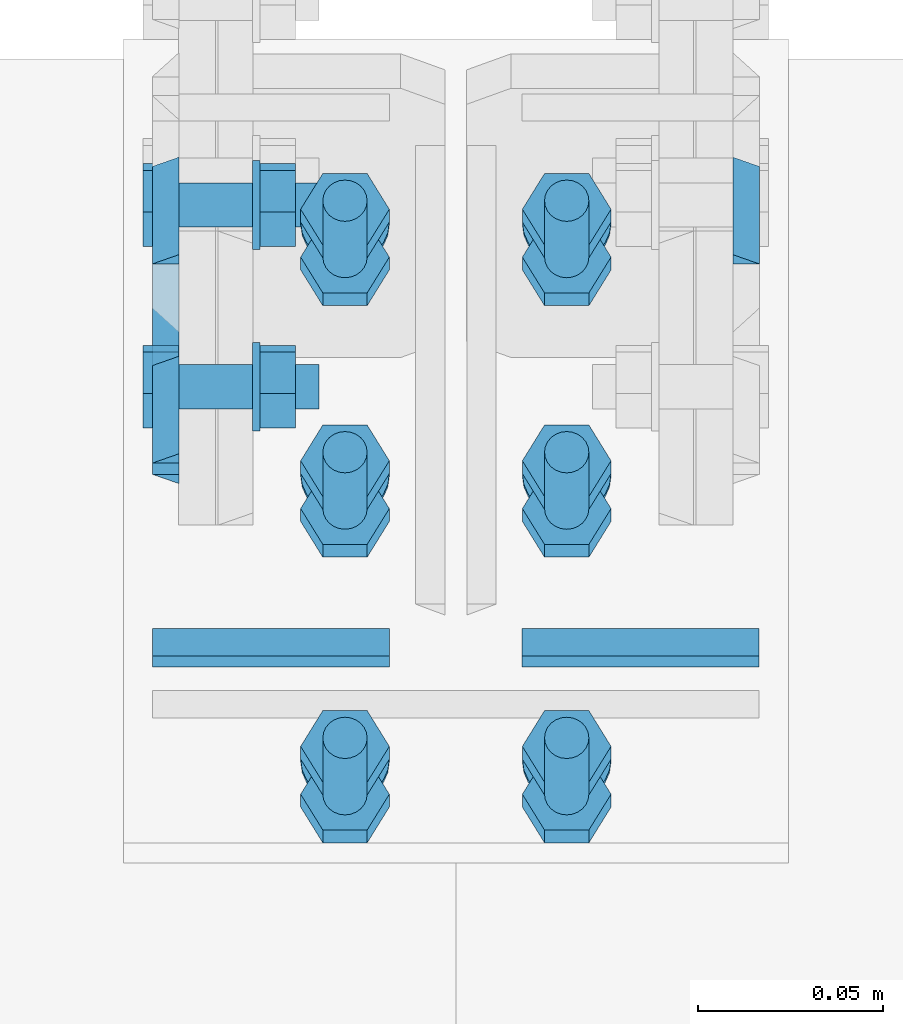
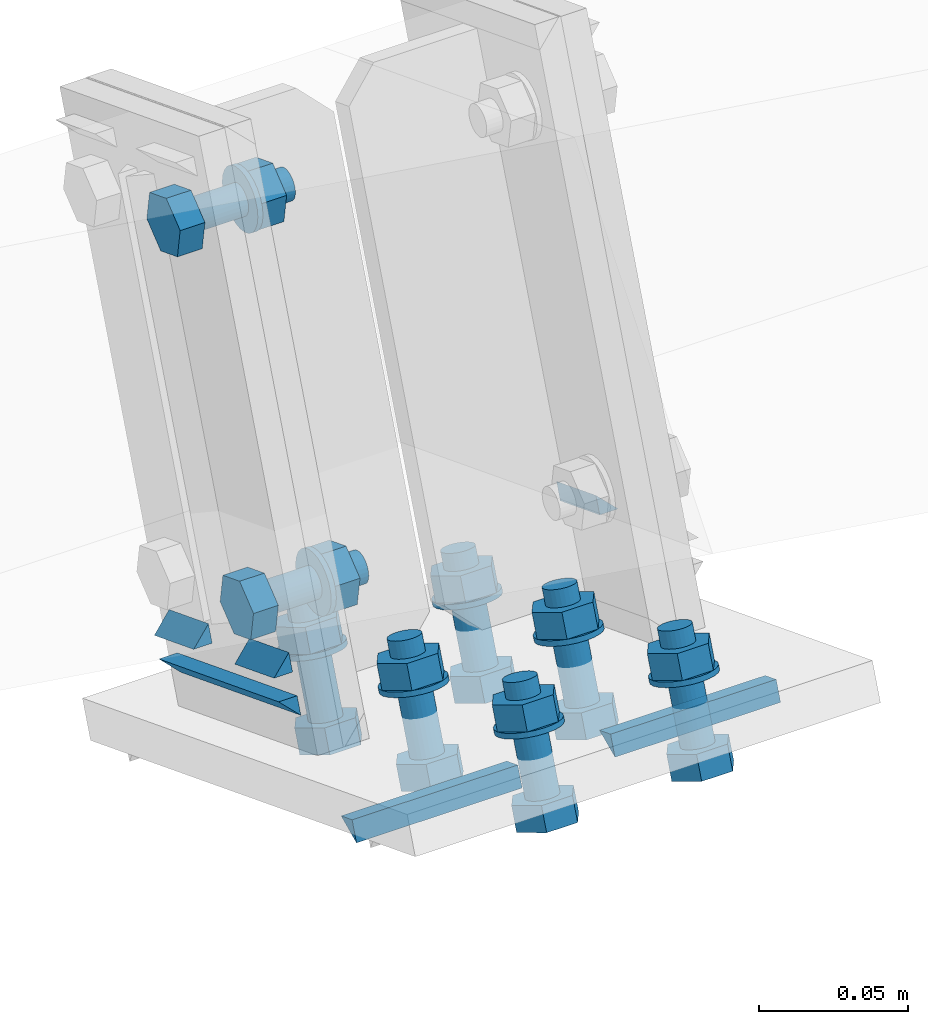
# One storey, part 48 of 72: 32 mechanical fasteners, 11 fasteners.
"""IFC4 building model written with IfcOpenShell, lengths in metres."""

import ifcopenshell
import ifcopenshell.guid

model = None  # the IFC model being written
_history = None  # IfcOwnerHistory: only IFC2X3 demands one
_inside = {}  # id of a spatial element -> (the spatial element, [elements in it])
_under = {}  # id of a project, library or spatial element -> (it, [spatial elements below it])
_declared = {}  # id of a project -> (the project, [libraries it declares])
_typed = {}  # id of a type object -> (the type object, [elements of that type])
_made_of = {}  # id of a material, layer set ... -> (it, [elements and type objects made of it])


def new_model(schema):
    """Start an empty IFC model of exactly this schema.

    Asked for "IFC4X3", IfcOpenShell would pick the latest addendum, in which some entities
    have other attributes; the version numbers below select the first issue.
    IFC2X3 requires an IfcOwnerHistory on every rooted entity: one is made here for all.
    """
    global model, _history
    if schema == "IFC4X3":
        model = ifcopenshell.file(schema_version=(4, 3, 0, 0))
    else:
        model = ifcopenshell.file(schema=schema)
    _inside.clear()
    _under.clear()
    _declared.clear()
    _typed.clear()
    _made_of.clear()
    _history = None
    if model.schema == "IFC2X3":
        org = make("IfcOrganization", Name="unknown")
        user = make(
            "IfcPersonAndOrganization",
            ThePerson=make("IfcPerson", FamilyName="unknown"),
            TheOrganization=org,
        )
        app = make(
            "IfcApplication",
            ApplicationDeveloper=org,
            Version="unknown",
            ApplicationFullName="unknown",
            ApplicationIdentifier="unknown",
        )
        _history = make(
            "IfcOwnerHistory",
            OwningUser=user,
            OwningApplication=app,
            ChangeAction="ADDED",
            CreationDate=0,
        )
    return model


def make(cls, **values):
    """One entity of the class cls with the attributes given. An attribute that is None is left unset."""
    return model.create_entity(
        cls, **{name: value for name, value in values.items() if value is not None}
    )


def rooted(cls, **values):
    """An entity with a GlobalId (a new one), such as an element, a storey or a relation."""
    return make(cls, GlobalId=ifcopenshell.guid.new(), OwnerHistory=_history, **values)


def si_unit(unit_type, name, prefix=None):
    """IfcSIUnit, for example si_unit("LENGTHUNIT", "METRE", prefix="MILLI")."""
    return make("IfcSIUnit", UnitType=unit_type, Prefix=prefix, Name=name)


def assignment(units):
    """IfcUnitAssignment: the units of a project."""
    return None if units is None else make("IfcUnitAssignment", Units=units)


def point(xyz):
    """IfcCartesianPoint."""
    return None if xyz is None else make("IfcCartesianPoint", Coordinates=xyz)


def direction(xyz):
    """IfcDirection."""
    return None if xyz is None else make("IfcDirection", DirectionRatios=xyz)


def frame(location, z_axis=None, x_axis=None):
    """IfcAxis2Placement3D, a coordinate frame: its origin and axes. An axis left out is left unset."""
    return make(
        "IfcAxis2Placement3D",
        Location=point(location),
        Axis=direction(z_axis),
        RefDirection=direction(x_axis),
    )


def origin_with_axes():
    """The frame at (0, 0, 0) with the z axis (0, 0, 1) and the x axis (1, 0, 0) written out."""
    return frame((0.0, 0.0, 0.0), z_axis=(0.0, 0.0, 1.0), x_axis=(1.0, 0.0, 0.0))


def place(relative_to, where):
    """IfcLocalPlacement: puts the frame where relative to a parent placement (None: the world)."""
    return make(
        "IfcLocalPlacement", PlacementRelTo=relative_to, RelativePlacement=where
    )


def context(
    kind, dimensions, precision=None, world=None, true_north=None, identifier=None
):
    """IfcGeometricRepresentationContext, for example the 3D "Model" context."""
    return make(
        "IfcGeometricRepresentationContext",
        ContextIdentifier=identifier,
        ContextType=kind,
        CoordinateSpaceDimension=dimensions,
        Precision=precision,
        WorldCoordinateSystem=world,
        TrueNorth=true_north,
    )


def project(units=None, contexts=None):
    """IfcProject with its units and contexts."""
    return rooted(
        "IfcProject",
        Name="project",
        RepresentationContexts=contexts,
        UnitsInContext=assignment(units),
    )


def spatial(cls, under=None, at=None, **own):
    """A site, building, storey or space (cls), placed at a placement, below another one or the project."""
    s = rooted(cls, ObjectPlacement=at, **own)
    if under is not None:
        _under.setdefault(under.id(), (under, []))[1].append(s)
    return s


def polyline(points):
    """IfcPolyline through the points."""
    return make("IfcPolyline", Points=[point(p) for p in points])


def outline(outer, holes=None, kind="AREA"):
    """IfcArbitraryClosedProfileDef: a profile drawn as a closed curve; with holes, ...WithVoids."""
    if holes is None:
        return make("IfcArbitraryClosedProfileDef", ProfileType=kind, OuterCurve=outer)
    return make(
        "IfcArbitraryProfileDefWithVoids",
        ProfileType=kind,
        OuterCurve=outer,
        InnerCurves=holes,
    )


def extrude(swept, where, along, depth):
    """IfcExtrudedAreaSolid: the profile swept, set in the frame where, extruded along a direction by depth."""
    return make(
        "IfcExtrudedAreaSolid",
        SweptArea=swept,
        Position=where,
        ExtrudedDirection=direction(along),
        Depth=depth,
    )


def shape(context_of_items, identifier, shape_type, items):
    """IfcShapeRepresentation: the items that make up one representation, for example the "Body"."""
    return make(
        "IfcShapeRepresentation",
        ContextOfItems=context_of_items,
        RepresentationIdentifier=identifier,
        RepresentationType=shape_type,
        Items=items,
    )


def made_of(thing, what):
    """Note that an element or type object is made of a material, layer set ...; save() writes the relation."""
    if what is not None:
        _made_of.setdefault(what.id(), (what, []))[1].append(thing)
    return thing


def type_object(cls, material=None, **own):
    """A type object (cls), such as IfcWallType, which elements share."""
    return made_of(rooted(cls, **own), material)


def element(
    cls,
    number,
    at=None,
    inside=None,
    cuts=None,
    type_object=None,
    material=None,
    context=None,
    identifier="Body",
    shape_type=None,
    held_by="IfcProductDefinitionShape",
    body=None,
    shapes=None,
    **own,
):
    """One element of the class cls, such as IfcWall. Its Tag is "e" and its number.

    at: its placement. inside: the storey or other place that contains it. cuts: it is an
    opening in that element (IfcRelVoidsElement). A single representation is given by context,
    identifier, shape_type and body (its items); several are given by shapes. held_by: the class
    of the entity that holds the representations. save() writes the other relations.
    """
    e = rooted(cls, Tag="e%d" % number, ObjectPlacement=at, **own)
    if body is not None:
        shapes = [shape(context, identifier, shape_type, body)]
    if shapes is not None:
        e.Representation = make(held_by, Representations=shapes)
    if inside is not None:
        _inside.setdefault(inside.id(), (inside, []))[1].append(e)
    if cuts is not None:
        rooted(
            "IfcRelVoidsElement", RelatingBuildingElement=cuts, RelatedOpeningElement=e
        )
    if type_object is not None:
        _typed.setdefault(type_object.id(), (type_object, []))[1].append(e)
    return made_of(e, material)


def aggregate(whole, parts):
    """IfcRelAggregates: a whole, such as a stair, and the parts it consists of."""
    return rooted("IfcRelAggregates", RelatingObject=whole, RelatedObjects=parts)


def save(model, path):
    """Write the relations noted so far, then the file.

    IfcRelAggregates (storeys below a building ...), IfcRelContainedInSpatialStructure (elements
    in a storey), IfcRelDefinesByType, IfcRelAssociatesMaterial and IfcRelDeclares: one each for
    every whole, place, type object, material and project.
    """
    for whole, parts in _under.values():
        aggregate(whole, parts)
    for where, things in _inside.values():
        rooted(
            "IfcRelContainedInSpatialStructure",
            RelatedElements=things,
            RelatingStructure=where,
        )
    for kind, things in _typed.values():
        rooted("IfcRelDefinesByType", RelatedObjects=things, RelatingType=kind)
    for what, things in _made_of.values():
        rooted("IfcRelAssociatesMaterial", RelatedObjects=things, RelatingMaterial=what)
    for by, libraries in _declared.values():
        rooted("IfcRelDeclares", RelatingContext=by, RelatedDefinitions=libraries)
    model.write(path)


model = new_model("IFC4")

# Units and contexts
model_context = context("Model", 3, precision=1e-05, world=origin_with_axes())
ifc_project = project(units=[si_unit("LENGTHUNIT", "METRE"), si_unit("AREAUNIT", "SQUARE_METRE"), si_unit("VOLUMEUNIT", "CUBIC_METRE"), si_unit("MASSUNIT", "GRAM", prefix="KILO"), si_unit("TIMEUNIT", "SECOND"), si_unit("PLANEANGLEUNIT", "RADIAN"), si_unit("SOLIDANGLEUNIT", "STERADIAN"), si_unit("THERMODYNAMICTEMPERATUREUNIT", "DEGREE_CELSIUS")], contexts=[model_context])

# Site, building, storey
placement_1 = place(None, origin_with_axes())
site = spatial("IfcSite", under=ifc_project, at=placement_1, Name="Italia", CompositionType="ELEMENT")
building = spatial("IfcBuilding", under=site, at=placement_1, Name="Uffici", CompositionType="ELEMENT")
storey = spatial("IfcBuildingStorey", under=building, at=placement_1, Name="Storey 0", CompositionType="ELEMENT", Elevation=0.0)

# Fasteners
fastener_type_1 = type_object("IfcFastenerType", Name="Collegamento 0208_0108", PredefinedType="WELD")
placement_2 = place(placement_1, origin_with_axes())
fastener_1_placement = place(placement_2, origin_with_axes())
element("IfcFastener", 1, at=fastener_1_placement, inside=storey, type_object=fastener_type_1, Name="Collegamento 0208_0108", context=model_context, shape_type="SweptSolid", body=[
    extrude(outline(polyline([(0.0, 0.0), (-0.0103469, -0.00475407), (-0.00739193, 0.00286627), (0.0, 0.0)])), frame((6.77295, 4.74586, 5.14777), z_axis=(1.0, 0.0, 0.0), x_axis=(0.0, 1.0, 0.0)), (0.0, 0.0, 1.0), 0.0641007),
])
fastener_type_2 = type_object("IfcFastenerType", Name="Collegamento 0208_0108", PredefinedType="WELD")
fastener_2_placement = place(placement_2, origin_with_axes())
element("IfcFastener", 2, at=fastener_2_placement, inside=storey, type_object=fastener_type_2, Name="Collegamento 0208_0108", context=model_context, shape_type="SweptSolid", body=[
    extrude(outline(polyline([(0.0, 0.0), (-0.0103469, -0.00475407), (-0.00739193, 0.00286627), (0.0, 0.0)])), frame((6.67295, 4.74586, 5.14777), z_axis=(1.0, 0.0, 0.0), x_axis=(0.0, 1.0, 0.0)), (0.0, 0.0, 1.0), 0.0641007),
])
fastener_type_3 = type_object("IfcFastenerType", Name="Collegamento 0208_0108", PredefinedType="WELD")
fastener_3_placement = place(placement_2, origin_with_axes())
element("IfcFastener", 3, at=fastener_3_placement, inside=storey, type_object=fastener_type_3, Name="Collegamento 0208_0108", context=model_context, shape_type="SweptSolid", body=[
    extrude(outline(polyline([(0.0, 0.0), (-0.0103469, -0.00475407), (-0.00739193, 0.00286627), (0.0, 0.0)])), frame((6.77295, 4.74586, 5.14777), z_axis=(1.0, 0.0, 0.0), x_axis=(0.0, 1.0, 0.0)), (0.0, 0.0, 1.0), 0.0641007),
])
fastener_type_4 = type_object("IfcFastenerType", Name="Collegamento 0208_0108", PredefinedType="WELD")
fastener_4_placement = place(placement_2, origin_with_axes())
element("IfcFastener", 4, at=fastener_4_placement, inside=storey, type_object=fastener_type_4, Name="Collegamento 0208_0108", context=model_context, shape_type="SweptSolid", body=[
    extrude(outline(polyline([(0.0, 0.0), (-0.0103469, -0.00475407), (-0.00739193, 0.00286627), (0.0, 0.0)])), frame((6.67295, 4.74586, 5.14777), z_axis=(1.0, 0.0, 0.0), x_axis=(0.0, 1.0, 0.0)), (0.0, 0.0, 1.0), 0.0641007),
])

# Mechanical fasteners
mechanical_fastener_type_1 = type_object("IfcMechanicalFastenerType", Name="Collegamento 0208_0108", PredefinedType="BOLT")
mechanical_fastener_1_placement = place(placement_2, origin_with_axes())
element("IfcMechanicalFastener", 5, at=mechanical_fastener_1_placement, inside=storey, type_object=mechanical_fastener_type_1, Name="Collegamento 0208_0108", NominalDiameter=0.0119996, context=model_context, shape_type="SweptSolid", body=[
    extrude(outline(polyline([(0.0, 0.0), (0.0119996, 0.0), (0.0179996, -0.0103922), (0.0119996, -0.0207846), (0.0, -0.0207846), (-0.00600004, -0.0103922), (0.0, 0.0)])), frame((6.779, 4.76862, 5.1389), z_axis=(0.0, -0.361504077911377, -0.932370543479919), x_axis=(1.0, 0.0, 0.0)), (0.0, 0.0, 1.0), 0.00959995),
])
mechanical_fastener_type_2 = type_object("IfcMechanicalFastenerType", Name="Collegamento 0208_0108", PredefinedType="BOLT")
mechanical_fastener_2_placement = place(placement_2, origin_with_axes())
element("IfcMechanicalFastener", 6, at=mechanical_fastener_2_placement, inside=storey, type_object=mechanical_fastener_type_2, Name="Collegamento 0208_0108", NominalDiameter=0.012, context=model_context, shape_type="SweptSolid", body=[
    extrude(outline(polyline([(0.0, 0.0), (-0.000204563, -0.00155282), (-0.000803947, -0.00300002), (-0.00175762, -0.00424314), (-0.00300026, -0.00519633), (-0.00444698, -0.00579524), (-0.00600004, -0.0059998), (-0.0075531, -0.00579524), (-0.00899982, -0.00519633), (-0.0102425, -0.00424314), (-0.0111961, -0.00300002), (-0.0117955, -0.00155282), (-0.0120001, 0.0), (-0.0117955, 0.00155282), (-0.0111961, 0.00300002), (-0.0102425, 0.0042429), (-0.00899982, 0.00519633), (-0.0075531, 0.00579572), (-0.00600004, 0.0059998), (-0.00444698, 0.00579572), (-0.00300026, 0.00519633), (-0.00175762, 0.0042429), (-0.000803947, 0.00300002), (-0.000204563, 0.00155282), (0.0, 0.0)])), frame((6.791, 4.79357, 5.17448), z_axis=(0.0, -0.361535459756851, -0.932358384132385), x_axis=(1.0, 0.0, 0.0)), (0.0, 0.0, 1.0), 0.0422002),
])
mechanical_fastener_type_3 = type_object("IfcMechanicalFastenerType", Name="Collegamento 0208_0108", PredefinedType="BOLT")
mechanical_fastener_3_placement = place(placement_2, origin_with_axes())
element("IfcMechanicalFastener", 7, at=mechanical_fastener_3_placement, inside=storey, type_object=mechanical_fastener_type_3, Name="Collegamento 0208_0108", NominalDiameter=0.0119996, context=model_context, shape_type="SweptSolid", body=[
    extrude(outline(polyline([(0.0, 0.0), (0.0119996, 0.0), (0.0179996, -0.0103927), (0.0119996, -0.0207846), (0.0, -0.0207846), (-0.00600004, -0.0103927), (0.0, 0.0)])), frame((6.779, 4.78156, 5.17227), z_axis=(0.0, -0.361563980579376, -0.932347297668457), x_axis=(1.0, 0.0, 0.0)), (0.0, 0.0, 1.0), 0.00959968),
])
mechanical_fastener_type_4 = type_object("IfcMechanicalFastenerType", Name="Collegamento 0208_0108", PredefinedType="BOLT")
mechanical_fastener_4_placement = place(placement_2, origin_with_axes())
element("IfcMechanicalFastener", 8, at=mechanical_fastener_4_placement, inside=storey, type_object=mechanical_fastener_type_4, Name="Collegamento 0208_0108", NominalDiameter=0.024, context=model_context, shape_type="SweptSolid", body=[
    extrude(outline(polyline([(0.0, 0.0), (-0.000409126, -0.00310612), (-0.00160789, -0.00600004), (-0.00351477, -0.00848579), (-0.00600004, -0.0103927), (-0.00889444, -0.0115914), (-0.0120001, -0.0120001), (-0.0151057, -0.0115914), (-0.0180001, -0.0103927), (-0.0204854, -0.00848579), (-0.0223923, -0.00600004), (-0.023591, -0.00310612), (-0.0240002, 0.0), (-0.023591, 0.00310564), (-0.0223923, 0.00600004), (-0.0204854, 0.00848532), (-0.0180001, 0.0103922), (-0.0151057, 0.0115914), (-0.0120001, 0.0119996), (-0.00889444, 0.0115914), (-0.00600004, 0.0103922), (-0.00351477, 0.00848532), (-0.00160789, 0.00600004), (-0.000409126, 0.00310564), (0.0, 0.0)])), frame((6.797, 4.78778, 5.15957), z_axis=(0.0, -0.361341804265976, -0.932433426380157), x_axis=(1.0, 0.0, 0.0)), (0.0, 0.0, 1.0), 0.00200056),
])
mechanical_fastener_type_5 = type_object("IfcMechanicalFastenerType", Name="Collegamento 0208_0108", PredefinedType="BOLT")
mechanical_fastener_5_placement = place(placement_2, origin_with_axes())
element("IfcMechanicalFastener", 9, at=mechanical_fastener_5_placement, inside=storey, type_object=mechanical_fastener_type_5, Name="Collegamento 0208_0108", NominalDiameter=0.0119996, context=model_context, shape_type="SweptSolid", body=[
    extrude(outline(polyline([(0.0, 0.0), (0.0119996, 0.0), (0.0179996, -0.0103922), (0.0119996, -0.0207846), (0.0, -0.0207846), (-0.00600004, -0.0103922), (0.0, 0.0)])), frame((6.719, 4.76862, 5.1389), z_axis=(0.0, -0.361504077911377, -0.932370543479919), x_axis=(1.0, 0.0, 0.0)), (0.0, 0.0, 1.0), 0.00959995),
])
mechanical_fastener_type_6 = type_object("IfcMechanicalFastenerType", Name="Collegamento 0208_0108", PredefinedType="BOLT")
mechanical_fastener_6_placement = place(placement_2, origin_with_axes())
element("IfcMechanicalFastener", 10, at=mechanical_fastener_6_placement, inside=storey, type_object=mechanical_fastener_type_6, Name="Collegamento 0208_0108", NominalDiameter=0.012, context=model_context, shape_type="SweptSolid", body=[
    extrude(outline(polyline([(0.0, 0.0), (-0.000204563, -0.00155282), (-0.000803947, -0.00300002), (-0.00175762, -0.00424314), (-0.00300026, -0.00519633), (-0.00444698, -0.00579524), (-0.00600004, -0.0059998), (-0.0075531, -0.00579524), (-0.00899982, -0.00519633), (-0.0102425, -0.00424314), (-0.0111961, -0.00300002), (-0.0117955, -0.00155282), (-0.0120001, 0.0), (-0.0117955, 0.00155282), (-0.0111961, 0.00300002), (-0.0102425, 0.0042429), (-0.00899982, 0.00519633), (-0.0075531, 0.00579572), (-0.00600004, 0.0059998), (-0.00444698, 0.00579572), (-0.00300026, 0.00519633), (-0.00175762, 0.0042429), (-0.000803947, 0.00300002), (-0.000204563, 0.00155282), (0.0, 0.0)])), frame((6.731, 4.79357, 5.17448), z_axis=(0.0, -0.361535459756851, -0.932358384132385), x_axis=(1.0, 0.0, 0.0)), (0.0, 0.0, 1.0), 0.0422002),
])
mechanical_fastener_type_7 = type_object("IfcMechanicalFastenerType", Name="Collegamento 0208_0108", PredefinedType="BOLT")
mechanical_fastener_7_placement = place(placement_2, origin_with_axes())
element("IfcMechanicalFastener", 11, at=mechanical_fastener_7_placement, inside=storey, type_object=mechanical_fastener_type_7, Name="Collegamento 0208_0108", NominalDiameter=0.0119996, context=model_context, shape_type="SweptSolid", body=[
    extrude(outline(polyline([(0.0, 0.0), (0.0119996, 0.0), (0.0179996, -0.0103927), (0.0119996, -0.0207846), (0.0, -0.0207846), (-0.00600004, -0.0103927), (0.0, 0.0)])), frame((6.719, 4.78156, 5.17227), z_axis=(0.0, -0.361563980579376, -0.932347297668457), x_axis=(1.0, 0.0, 0.0)), (0.0, 0.0, 1.0), 0.00959968),
])
mechanical_fastener_type_8 = type_object("IfcMechanicalFastenerType", Name="Collegamento 0208_0108", PredefinedType="BOLT")
mechanical_fastener_8_placement = place(placement_2, origin_with_axes())
element("IfcMechanicalFastener", 12, at=mechanical_fastener_8_placement, inside=storey, type_object=mechanical_fastener_type_8, Name="Collegamento 0208_0108", NominalDiameter=0.024, context=model_context, shape_type="SweptSolid", body=[
    extrude(outline(polyline([(0.0, 0.0), (-0.000409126, -0.00310612), (-0.00160789, -0.00600004), (-0.00351477, -0.00848579), (-0.00600004, -0.0103927), (-0.00889444, -0.0115914), (-0.0120001, -0.0120001), (-0.0151057, -0.0115914), (-0.0180001, -0.0103927), (-0.0204854, -0.00848579), (-0.0223923, -0.00600004), (-0.023591, -0.00310612), (-0.0240002, 0.0), (-0.023591, 0.00310564), (-0.0223923, 0.00600004), (-0.0204854, 0.00848532), (-0.0180001, 0.0103922), (-0.0151057, 0.0115914), (-0.0120001, 0.0119996), (-0.00889444, 0.0115914), (-0.00600004, 0.0103922), (-0.00351477, 0.00848532), (-0.00160789, 0.00600004), (-0.000409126, 0.00310564), (0.0, 0.0)])), frame((6.737, 4.78778, 5.15957), z_axis=(0.0, -0.361341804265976, -0.932433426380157), x_axis=(1.0, 0.0, 0.0)), (0.0, 0.0, 1.0), 0.00200056),
])
mechanical_fastener_type_9 = type_object("IfcMechanicalFastenerType", Name="Collegamento 0208_0108", PredefinedType="BOLT")
mechanical_fastener_9_placement = place(placement_2, origin_with_axes())
element("IfcMechanicalFastener", 13, at=mechanical_fastener_9_placement, inside=storey, type_object=mechanical_fastener_type_9, Name="Collegamento 0208_0108", NominalDiameter=0.0119996, context=model_context, shape_type="SweptSolid", body=[
    extrude(outline(polyline([(0.0, 0.0), (0.0119996, 0.0), (0.0179996, -0.0103924), (0.0119996, -0.0207853), (0.0, -0.0207853), (-0.00600004, -0.0103924), (0.0, 0.0)])), frame((6.779, 4.83668, 5.1125), z_axis=(0.0, -0.361504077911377, -0.932370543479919), x_axis=(1.0, 0.0, 0.0)), (0.0, 0.0, 1.0), 0.00959995),
])
mechanical_fastener_type_10 = type_object("IfcMechanicalFastenerType", Name="Collegamento 0208_0108", PredefinedType="BOLT")
mechanical_fastener_10_placement = place(placement_2, origin_with_axes())
element("IfcMechanicalFastener", 14, at=mechanical_fastener_10_placement, inside=storey, type_object=mechanical_fastener_type_10, Name="Collegamento 0208_0108", NominalDiameter=0.012, context=model_context, shape_type="SweptSolid", body=[
    extrude(outline(polyline([(0.0, 0.0), (-0.000204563, -0.00155306), (-0.000803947, -0.00300002), (-0.00175762, -0.0042429), (-0.00300026, -0.00519657), (-0.00444698, -0.00579596), (-0.00600004, -0.00600052), (-0.0075531, -0.00579596), (-0.00899982, -0.00519657), (-0.0102425, -0.0042429), (-0.0111961, -0.00300002), (-0.0117955, -0.00155306), (-0.0120001, 0.0), (-0.0117955, 0.00155258), (-0.0111961, 0.00299978), (-0.0102425, 0.0042429), (-0.00899982, 0.00519609), (-0.0075531, 0.00579548), (-0.00600004, 0.00599957), (-0.00444698, 0.00579548), (-0.00300026, 0.00519609), (-0.00175762, 0.0042429), (-0.000803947, 0.00299978), (-0.000204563, 0.00155258), (0.0, 0.0)])), frame((6.791, 4.86163, 5.14809), z_axis=(0.0, -0.361519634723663, -0.932364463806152), x_axis=(1.0, 0.0, 0.0)), (0.0, 0.0, 1.0), 0.0421994),
])
mechanical_fastener_type_11 = type_object("IfcMechanicalFastenerType", Name="Collegamento 0208_0108", PredefinedType="BOLT")
mechanical_fastener_11_placement = place(placement_2, origin_with_axes())
element("IfcMechanicalFastener", 15, at=mechanical_fastener_11_placement, inside=storey, type_object=mechanical_fastener_type_11, Name="Collegamento 0208_0108", NominalDiameter=0.0119996, context=model_context, shape_type="SweptSolid", body=[
    extrude(outline(polyline([(0.0, 0.0), (0.0119996, 0.0), (0.0179996, -0.0103922), (0.0119996, -0.0207846), (0.0, -0.0207846), (-0.00600004, -0.0103922), (0.0, 0.0)])), frame((6.779, 4.84962, 5.14588), z_axis=(0.0, -0.361504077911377, -0.932370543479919), x_axis=(1.0, 0.0, 0.0)), (0.0, 0.0, 1.0), 0.00959995),
])
mechanical_fastener_type_12 = type_object("IfcMechanicalFastenerType", Name="Collegamento 0208_0108", PredefinedType="BOLT")
mechanical_fastener_12_placement = place(placement_2, origin_with_axes())
element("IfcMechanicalFastener", 16, at=mechanical_fastener_12_placement, inside=storey, type_object=mechanical_fastener_type_12, Name="Collegamento 0208_0108", NominalDiameter=0.024, context=model_context, shape_type="SweptSolid", body=[
    extrude(outline(polyline([(0.0, 0.0), (-0.000409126, -0.00310564), (-0.00160789, -0.00600028), (-0.00351477, -0.00848508), (-0.00600004, -0.0103922), (-0.00889444, -0.011591), (-0.0120001, -0.0120001), (-0.0151057, -0.011591), (-0.0180001, -0.0103922), (-0.0204854, -0.00848508), (-0.0223923, -0.00600028), (-0.023591, -0.00310564), (-0.0240002, 0.0), (-0.023591, 0.00310564), (-0.0223923, 0.00600028), (-0.0204854, 0.00848508), (-0.0180001, 0.0103922), (-0.0151057, 0.011591), (-0.0120001, 0.0120001), (-0.00889444, 0.011591), (-0.00600004, 0.0103922), (-0.00351477, 0.00848508), (-0.00160789, 0.00600028), (-0.000409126, 0.00310564), (0.0, 0.0)])), frame((6.797, 4.85584, 5.13317), z_axis=(0.0, -0.361502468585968, -0.932371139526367), x_axis=(1.0, 0.0, 0.0)), (0.0, 0.0, 1.0), 0.00199967),
])
mechanical_fastener_type_13 = type_object("IfcMechanicalFastenerType", Name="Collegamento 0208_0108", PredefinedType="BOLT")
mechanical_fastener_13_placement = place(placement_2, origin_with_axes())
element("IfcMechanicalFastener", 17, at=mechanical_fastener_13_placement, inside=storey, type_object=mechanical_fastener_type_13, Name="Collegamento 0208_0108", NominalDiameter=0.0119996, context=model_context, shape_type="SweptSolid", body=[
    extrude(outline(polyline([(0.0, 0.0), (0.0119996, 0.0), (0.0179996, -0.0103924), (0.0119996, -0.0207853), (0.0, -0.0207853), (-0.00600004, -0.0103924), (0.0, 0.0)])), frame((6.719, 4.83668, 5.1125), z_axis=(0.0, -0.361504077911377, -0.932370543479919), x_axis=(1.0, 0.0, 0.0)), (0.0, 0.0, 1.0), 0.00959995),
])
mechanical_fastener_type_14 = type_object("IfcMechanicalFastenerType", Name="Collegamento 0208_0108", PredefinedType="BOLT")
mechanical_fastener_14_placement = place(placement_2, origin_with_axes())
element("IfcMechanicalFastener", 18, at=mechanical_fastener_14_placement, inside=storey, type_object=mechanical_fastener_type_14, Name="Collegamento 0208_0108", NominalDiameter=0.012, context=model_context, shape_type="SweptSolid", body=[
    extrude(outline(polyline([(0.0, 0.0), (-0.000204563, -0.00155306), (-0.000803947, -0.00300002), (-0.00175762, -0.0042429), (-0.00300026, -0.00519657), (-0.00444698, -0.00579596), (-0.00600004, -0.00600052), (-0.0075531, -0.00579596), (-0.00899982, -0.00519657), (-0.0102425, -0.0042429), (-0.0111961, -0.00300002), (-0.0117955, -0.00155306), (-0.0120001, 0.0), (-0.0117955, 0.00155258), (-0.0111961, 0.00299978), (-0.0102425, 0.0042429), (-0.00899982, 0.00519609), (-0.0075531, 0.00579548), (-0.00600004, 0.00599957), (-0.00444698, 0.00579548), (-0.00300026, 0.00519609), (-0.00175762, 0.0042429), (-0.000803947, 0.00299978), (-0.000204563, 0.00155258), (0.0, 0.0)])), frame((6.731, 4.86163, 5.14809), z_axis=(0.0, -0.361519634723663, -0.932364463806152), x_axis=(1.0, 0.0, 0.0)), (0.0, 0.0, 1.0), 0.0421994),
])
mechanical_fastener_type_15 = type_object("IfcMechanicalFastenerType", Name="Collegamento 0208_0108", PredefinedType="BOLT")
mechanical_fastener_15_placement = place(placement_2, origin_with_axes())
element("IfcMechanicalFastener", 19, at=mechanical_fastener_15_placement, inside=storey, type_object=mechanical_fastener_type_15, Name="Collegamento 0208_0108", NominalDiameter=0.0119996, context=model_context, shape_type="SweptSolid", body=[
    extrude(outline(polyline([(0.0, 0.0), (0.0119996, 0.0), (0.0179996, -0.0103922), (0.0119996, -0.0207846), (0.0, -0.0207846), (-0.00600004, -0.0103922), (0.0, 0.0)])), frame((6.719, 4.84962, 5.14588), z_axis=(0.0, -0.361504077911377, -0.932370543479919), x_axis=(1.0, 0.0, 0.0)), (0.0, 0.0, 1.0), 0.00959995),
])
mechanical_fastener_type_16 = type_object("IfcMechanicalFastenerType", Name="Collegamento 0208_0108", PredefinedType="BOLT")
mechanical_fastener_16_placement = place(placement_2, origin_with_axes())
element("IfcMechanicalFastener", 20, at=mechanical_fastener_16_placement, inside=storey, type_object=mechanical_fastener_type_16, Name="Collegamento 0208_0108", NominalDiameter=0.024, context=model_context, shape_type="SweptSolid", body=[
    extrude(outline(polyline([(0.0, 0.0), (-0.000409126, -0.00310564), (-0.00160789, -0.00600028), (-0.00351477, -0.00848508), (-0.00600004, -0.0103922), (-0.00889444, -0.011591), (-0.0120001, -0.0120001), (-0.0151057, -0.011591), (-0.0180001, -0.0103922), (-0.0204854, -0.00848508), (-0.0223923, -0.00600028), (-0.023591, -0.00310564), (-0.0240002, 0.0), (-0.023591, 0.00310564), (-0.0223923, 0.00600028), (-0.0204854, 0.00848508), (-0.0180001, 0.0103922), (-0.0151057, 0.011591), (-0.0120001, 0.0120001), (-0.00889444, 0.011591), (-0.00600004, 0.0103922), (-0.00351477, 0.00848508), (-0.00160789, 0.00600028), (-0.000409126, 0.00310564), (0.0, 0.0)])), frame((6.737, 4.85584, 5.13317), z_axis=(0.0, -0.361502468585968, -0.932371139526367), x_axis=(1.0, 0.0, 0.0)), (0.0, 0.0, 1.0), 0.00199967),
])
mechanical_fastener_type_17 = type_object("IfcMechanicalFastenerType", Name="Collegamento 0208_0108", PredefinedType="BOLT")
mechanical_fastener_17_placement = place(placement_2, origin_with_axes())
element("IfcMechanicalFastener", 21, at=mechanical_fastener_17_placement, inside=storey, type_object=mechanical_fastener_type_17, Name="Collegamento 0208_0108", NominalDiameter=0.0119996, context=model_context, shape_type="SweptSolid", body=[
    extrude(outline(polyline([(0.0, 0.0), (0.0119996, 0.0), (0.0179996, -0.0103922), (0.0119996, -0.0207849), (0.0, -0.0207849), (-0.00600004, -0.0103922), (0.0, 0.0)])), frame((6.779, 4.69133, 5.16887), z_axis=(0.0, -0.361547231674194, -0.932353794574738), x_axis=(1.0, 0.0, 0.0)), (0.0, 0.0, 1.0), 0.00960012),
])
mechanical_fastener_type_18 = type_object("IfcMechanicalFastenerType", Name="Collegamento 0208_0108", PredefinedType="BOLT")
mechanical_fastener_18_placement = place(placement_2, origin_with_axes())
element("IfcMechanicalFastener", 22, at=mechanical_fastener_18_placement, inside=storey, type_object=mechanical_fastener_type_18, Name="Collegamento 0208_0108", NominalDiameter=0.012, context=model_context, shape_type="SweptSolid", body=[
    extrude(outline(polyline([(0.0, 0.0), (-0.000204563, -0.00155258), (-0.000803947, -0.00300026), (-0.00175762, -0.0042429), (-0.00300026, -0.00519609), (-0.00444698, -0.00579548), (-0.00600004, -0.00600004), (-0.0075531, -0.00579548), (-0.00899982, -0.00519609), (-0.0102425, -0.0042429), (-0.0111961, -0.00300026), (-0.0117955, -0.00155258), (-0.0120001, 0.0), (-0.0117955, 0.00155258), (-0.0111961, 0.00299978), (-0.0102425, 0.00424242), (-0.00899982, 0.00519609), (-0.0075531, 0.00579548), (-0.00600004, 0.00600004), (-0.00444698, 0.00579548), (-0.00300026, 0.00519609), (-0.00175762, 0.00424242), (-0.000803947, 0.00299978), (-0.000204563, 0.00155258), (0.0, 0.0)])), frame((6.791, 4.71627, 5.20445), z_axis=(0.0, -0.361519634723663, -0.932364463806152), x_axis=(1.0, 0.0, 0.0)), (0.0, 0.0, 1.0), 0.0421994),
])
mechanical_fastener_type_19 = type_object("IfcMechanicalFastenerType", Name="Collegamento 0208_0108", PredefinedType="BOLT")
mechanical_fastener_19_placement = place(placement_2, origin_with_axes())
element("IfcMechanicalFastener", 23, at=mechanical_fastener_19_placement, inside=storey, type_object=mechanical_fastener_type_19, Name="Collegamento 0208_0108", NominalDiameter=0.0119996, context=model_context, shape_type="SweptSolid", body=[
    extrude(outline(polyline([(0.0, 0.0), (0.0119996, 0.0), (0.0179996, -0.0103922), (0.0119996, -0.0207846), (0.0, -0.0207846), (-0.00600004, -0.0103922), (0.0, 0.0)])), frame((6.779, 4.70427, 5.20224), z_axis=(0.0, -0.361520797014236, -0.932364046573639), x_axis=(1.0, 0.0, 0.0)), (0.0, 0.0, 1.0), 0.0095995),
])
mechanical_fastener_type_20 = type_object("IfcMechanicalFastenerType", Name="Collegamento 0208_0108", PredefinedType="BOLT")
mechanical_fastener_20_placement = place(placement_2, origin_with_axes())
element("IfcMechanicalFastener", 24, at=mechanical_fastener_20_placement, inside=storey, type_object=mechanical_fastener_type_20, Name="Collegamento 0208_0108", NominalDiameter=0.024, context=model_context, shape_type="SweptSolid", body=[
    extrude(outline(polyline([(0.0, 0.0), (-0.000409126, -0.00310636), (-0.00160789, -0.00600028), (-0.00351477, -0.00848508), (-0.00600004, -0.0103924), (-0.00889444, -0.0115912), (-0.0120001, -0.0120003), (-0.0151057, -0.0115912), (-0.0180001, -0.0103924), (-0.0204854, -0.00848508), (-0.0223923, -0.00600028), (-0.023591, -0.00310636), (-0.0240002, 0.0), (-0.023591, 0.00310588), (-0.0223923, 0.0059998), (-0.0204854, 0.00848508), (-0.0180001, 0.010392), (-0.0151057, 0.011591), (-0.0120001, 0.0120001), (-0.00889444, 0.011591), (-0.00600004, 0.010392), (-0.00351477, 0.00848508), (-0.00160789, 0.0059998), (-0.000409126, 0.00310588), (0.0, 0.0)])), frame((6.797, 4.71049, 5.18954), z_axis=(0.0, -0.361502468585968, -0.932371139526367), x_axis=(1.0, 0.0, 0.0)), (0.0, 0.0, 1.0), 0.00199967),
])
mechanical_fastener_type_21 = type_object("IfcMechanicalFastenerType", Name="Collegamento 0208_0108", PredefinedType="BOLT")
mechanical_fastener_21_placement = place(placement_2, origin_with_axes())
element("IfcMechanicalFastener", 25, at=mechanical_fastener_21_placement, inside=storey, type_object=mechanical_fastener_type_21, Name="Collegamento 0208_0108", NominalDiameter=0.0119996, context=model_context, shape_type="SweptSolid", body=[
    extrude(outline(polyline([(0.0, 0.0), (0.0119996, 0.0), (0.0179996, -0.0103922), (0.0119996, -0.0207849), (0.0, -0.0207849), (-0.00600004, -0.0103922), (0.0, 0.0)])), frame((6.719, 4.69133, 5.16887), z_axis=(0.0, -0.361547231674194, -0.932353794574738), x_axis=(1.0, 0.0, 0.0)), (0.0, 0.0, 1.0), 0.00960012),
])
mechanical_fastener_type_22 = type_object("IfcMechanicalFastenerType", Name="Collegamento 0208_0108", PredefinedType="BOLT")
mechanical_fastener_22_placement = place(placement_2, origin_with_axes())
element("IfcMechanicalFastener", 26, at=mechanical_fastener_22_placement, inside=storey, type_object=mechanical_fastener_type_22, Name="Collegamento 0208_0108", NominalDiameter=0.012, context=model_context, shape_type="SweptSolid", body=[
    extrude(outline(polyline([(0.0, 0.0), (-0.000204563, -0.00155258), (-0.000803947, -0.00300026), (-0.00175762, -0.0042429), (-0.00300026, -0.00519609), (-0.00444698, -0.00579548), (-0.00600004, -0.00600004), (-0.0075531, -0.00579548), (-0.00899982, -0.00519609), (-0.0102425, -0.0042429), (-0.0111961, -0.00300026), (-0.0117955, -0.00155258), (-0.0120001, 0.0), (-0.0117955, 0.00155258), (-0.0111961, 0.00299978), (-0.0102425, 0.00424242), (-0.00899982, 0.00519609), (-0.0075531, 0.00579548), (-0.00600004, 0.00600004), (-0.00444698, 0.00579548), (-0.00300026, 0.00519609), (-0.00175762, 0.00424242), (-0.000803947, 0.00299978), (-0.000204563, 0.00155258), (0.0, 0.0)])), frame((6.731, 4.71627, 5.20445), z_axis=(0.0, -0.361519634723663, -0.932364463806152), x_axis=(1.0, 0.0, 0.0)), (0.0, 0.0, 1.0), 0.0421994),
])
mechanical_fastener_type_23 = type_object("IfcMechanicalFastenerType", Name="Collegamento 0208_0108", PredefinedType="BOLT")
mechanical_fastener_23_placement = place(placement_2, origin_with_axes())
element("IfcMechanicalFastener", 27, at=mechanical_fastener_23_placement, inside=storey, type_object=mechanical_fastener_type_23, Name="Collegamento 0208_0108", NominalDiameter=0.0119996, context=model_context, shape_type="SweptSolid", body=[
    extrude(outline(polyline([(0.0, 0.0), (0.0119996, 0.0), (0.0179996, -0.0103922), (0.0119996, -0.0207846), (0.0, -0.0207846), (-0.00600004, -0.0103922), (0.0, 0.0)])), frame((6.719, 4.70427, 5.20224), z_axis=(0.0, -0.361520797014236, -0.932364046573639), x_axis=(1.0, 0.0, 0.0)), (0.0, 0.0, 1.0), 0.0095995),
])
mechanical_fastener_type_24 = type_object("IfcMechanicalFastenerType", Name="Collegamento 0208_0108", PredefinedType="BOLT")
mechanical_fastener_24_placement = place(placement_2, origin_with_axes())
element("IfcMechanicalFastener", 28, at=mechanical_fastener_24_placement, inside=storey, type_object=mechanical_fastener_type_24, Name="Collegamento 0208_0108", NominalDiameter=0.024, context=model_context, shape_type="SweptSolid", body=[
    extrude(outline(polyline([(0.0, 0.0), (-0.000409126, -0.00310636), (-0.00160789, -0.00600028), (-0.00351477, -0.00848508), (-0.00600004, -0.0103924), (-0.00889444, -0.0115912), (-0.0120001, -0.0120003), (-0.0151057, -0.0115912), (-0.0180001, -0.0103924), (-0.0204854, -0.00848508), (-0.0223923, -0.00600028), (-0.023591, -0.00310636), (-0.0240002, 0.0), (-0.023591, 0.00310588), (-0.0223923, 0.0059998), (-0.0204854, 0.00848508), (-0.0180001, 0.010392), (-0.0151057, 0.011591), (-0.0120001, 0.0120001), (-0.00889444, 0.011591), (-0.00600004, 0.010392), (-0.00351477, 0.00848508), (-0.00160789, 0.0059998), (-0.000409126, 0.00310588), (0.0, 0.0)])), frame((6.737, 4.71049, 5.18954), z_axis=(0.0, -0.361502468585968, -0.932371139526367), x_axis=(1.0, 0.0, 0.0)), (0.0, 0.0, 1.0), 0.00199967),
])

# Fasteners
fastener_type_5 = type_object("IfcFastenerType", Name="Collegamento 0208_0207", PredefinedType="WELD")
fastener_5_placement = place(placement_2, origin_with_axes())
element("IfcFastener", 29, at=fastener_5_placement, inside=storey, type_object=fastener_type_5, Name="Collegamento 0208_0207", context=model_context, shape_type="SweptSolid", body=[
    extrude(outline(polyline([(0.0, 0.0), (0.00717354, -0.00695848), (0.0, -0.00695848), (0.0, 0.0)])), frame((6.68005, 4.84703, 5.16256), z_axis=(0.0, 0.932390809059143, -0.361451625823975), x_axis=(-1.0, 0.0, 0.0)), (0.0, 0.0, 1.0), 0.0283001),
])
fastener_type_6 = type_object("IfcFastenerType", Name="Collegamento 0208_0207", PredefinedType="WELD")
fastener_6_placement = place(placement_2, origin_with_axes())
element("IfcFastener", 30, at=fastener_6_placement, inside=storey, type_object=fastener_type_6, Name="Collegamento 0208_0207", context=model_context, shape_type="SweptSolid", body=[
    extrude(outline(polyline([(0.0, 0.0), (-0.00717354, 0.00695848), (0.0, 0.00695848), (0.0, 0.0)])), frame((6.68005, 4.86535, 5.13152), z_axis=(0.0, -0.932385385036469, 0.361465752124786), x_axis=(1.0, 0.0, 0.0)), (0.0, 0.0, 1.0), 0.0861),
])
fastener_type_7 = type_object("IfcFastenerType", Name="Collegamento 0208_0207", PredefinedType="WELD")
fastener_7_placement = place(placement_2, origin_with_axes())
element("IfcFastener", 31, at=fastener_7_placement, inside=storey, type_object=fastener_type_7, Name="Collegamento 0208_0207", context=model_context, shape_type="SweptSolid", body=[
    extrude(outline(polyline([(0.0, 0.0), (0.00717354, -0.00695801), (0.0, -0.00695801), (0.0, 0.0)])), frame((6.68005, 4.79314, 5.18345), z_axis=(0.0, 0.932381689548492, -0.361475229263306), x_axis=(-1.0, 0.0, 0.0)), (0.0, 0.0, 1.0), 0.0283009),
])
fastener_type_8 = type_object("IfcFastenerType", Name="Collegamento 0208_0207", PredefinedType="WELD")
fastener_8_placement = place(placement_2, origin_with_axes())
element("IfcFastener", 32, at=fastener_8_placement, inside=storey, type_object=fastener_type_8, Name="Collegamento 0208_0207", context=model_context, shape_type="SweptSolid", body=[
    extrude(outline(polyline([(0.0, 0.0), (0.00717354, -0.00695848), (0.0, -0.00695848), (0.0, 0.0)])), frame((6.68005, 4.84703, 5.16256), z_axis=(0.0, 0.932390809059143, -0.361451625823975), x_axis=(-1.0, 0.0, 0.0)), (0.0, 0.0, 1.0), 0.0283001),
])
fastener_type_9 = type_object("IfcFastenerType", Name="Collegamento 0208_0207", PredefinedType="WELD")
fastener_9_placement = place(placement_2, origin_with_axes())
element("IfcFastener", 33, at=fastener_9_placement, inside=storey, type_object=fastener_type_9, Name="Collegamento 0208_0207", context=model_context, shape_type="SweptSolid", body=[
    extrude(outline(polyline([(0.0, 0.0), (-0.00717354, 0.00695848), (0.0, 0.00695848), (0.0, 0.0)])), frame((6.68005, 4.86535, 5.13152), z_axis=(0.0, -0.932385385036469, 0.361465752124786), x_axis=(1.0, 0.0, 0.0)), (0.0, 0.0, 1.0), 0.0861),
])
fastener_type_10 = type_object("IfcFastenerType", Name="Collegamento 0208_0207", PredefinedType="WELD")
fastener_10_placement = place(placement_2, origin_with_axes())
element("IfcFastener", 34, at=fastener_10_placement, inside=storey, type_object=fastener_type_10, Name="Collegamento 0208_0207", context=model_context, shape_type="SweptSolid", body=[
    extrude(outline(polyline([(0.0, 0.0), (0.00717354, -0.00695801), (0.0, -0.00695801), (0.0, 0.0)])), frame((6.68005, 4.79314, 5.18345), z_axis=(0.0, 0.932381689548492, -0.361475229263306), x_axis=(-1.0, 0.0, 0.0)), (0.0, 0.0, 1.0), 0.0283009),
])

# Mechanical fasteners
mechanical_fastener_type_25 = type_object("IfcMechanicalFastenerType", Name="Collegamento 0208_0207", PredefinedType="BOLT")
mechanical_fastener_25_placement = place(placement_2, origin_with_axes())
element("IfcMechanicalFastener", 35, at=mechanical_fastener_25_placement, inside=storey, type_object=mechanical_fastener_type_25, Name="Collegamento 0208_0207", NominalDiameter=0.0119998, context=model_context, shape_type="SweptSolid", body=[
    extrude(outline(polyline([(0.0, 0.0), (-0.0111885, -0.00433731), (-0.0205393, 0.00318336), (-0.0187011, 0.0150418), (-0.00751257, 0.0193796), (0.00183821, 0.0118585), (0.0, 0.0)])), frame((6.68, 4.80195, 5.18668), z_axis=(-1.0, 0.0, 0.0), x_axis=(0.0, -1.0, 0.0)), (0.0, 0.0, 1.0), 0.00960016),
])
mechanical_fastener_type_26 = type_object("IfcMechanicalFastenerType", Name="Collegamento 0208_0207", PredefinedType="BOLT")
mechanical_fastener_26_placement = place(placement_2, origin_with_axes())
element("IfcMechanicalFastener", 36, at=mechanical_fastener_26_placement, inside=storey, type_object=mechanical_fastener_type_26, Name="Collegamento 0208_0207", NominalDiameter=0.012, context=model_context, shape_type="SweptSolid", body=[
    extrude(outline(polyline([(0.0, 0.0), (-0.000204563, -0.00155306), (-0.000803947, -0.00299978), (-0.00175762, -0.00424242), (-0.00300026, -0.00519609), (-0.00444698, -0.00579548), (-0.00600004, -0.00600004), (-0.0075531, -0.00579548), (-0.00899982, -0.00519609), (-0.0102425, -0.00424242), (-0.0111961, -0.00299978), (-0.0117955, -0.00155306), (-0.0120001, 0.0), (-0.0117955, 0.00155306), (-0.0111961, 0.00299978), (-0.0102425, 0.00424242), (-0.00899982, 0.00519609), (-0.0075531, 0.00579548), (-0.00600004, 0.00600004), (-0.00444698, 0.00579548), (-0.00300026, 0.00519609), (-0.00175762, 0.00424242), (-0.000803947, 0.00299978), (-0.000204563, 0.00155306), (0.0, 0.0)])), frame((6.718, 4.8053, 5.1942), z_axis=(-1.0, 0.0, 0.0), x_axis=(0.0, -1.0, 0.0)), (0.0, 0.0, 1.0), 0.0380001),
])
mechanical_fastener_type_27 = type_object("IfcMechanicalFastenerType", Name="Collegamento 0208_0207", PredefinedType="BOLT")
mechanical_fastener_27_placement = place(placement_2, origin_with_axes())
element("IfcMechanicalFastener", 37, at=mechanical_fastener_27_placement, inside=storey, type_object=mechanical_fastener_type_27, Name="Collegamento 0208_0207", NominalDiameter=0.0119998, context=model_context, shape_type="SweptSolid", body=[
    extrude(outline(polyline([(0.0, 0.0), (-0.0111885, -0.00433731), (-0.0205393, 0.00318336), (-0.0187011, 0.0150418), (-0.00751257, 0.0193796), (0.00183821, 0.0118585), (0.0, 0.0)])), frame((6.7116, 4.80195, 5.18668), z_axis=(-1.0, 0.0, 0.0), x_axis=(0.0, -1.0, 0.0)), (0.0, 0.0, 1.0), 0.00960016),
])
mechanical_fastener_type_28 = type_object("IfcMechanicalFastenerType", Name="Collegamento 0208_0207", PredefinedType="BOLT")
mechanical_fastener_28_placement = place(placement_2, origin_with_axes())
element("IfcMechanicalFastener", 38, at=mechanical_fastener_28_placement, inside=storey, type_object=mechanical_fastener_type_28, Name="Collegamento 0208_0207", NominalDiameter=0.024, context=model_context, shape_type="SweptSolid", body=[
    extrude(outline(polyline([(0.0, 0.0), (-0.000409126, -0.00310564), (-0.00160789, -0.00600004), (-0.00351477, -0.00848532), (-0.00600004, -0.0103922), (-0.00889444, -0.011591), (-0.0120001, -0.0120001), (-0.0151057, -0.011591), (-0.0180001, -0.0103922), (-0.0204854, -0.00848532), (-0.0223923, -0.00600004), (-0.023591, -0.00310564), (-0.0240002, 0.0), (-0.023591, 0.00310564), (-0.0223923, 0.00600004), (-0.0204854, 0.00848532), (-0.0180001, 0.0103922), (-0.0151057, 0.011591), (-0.0120001, 0.0120001), (-0.00889444, 0.011591), (-0.00600004, 0.0103922), (-0.00351477, 0.00848532), (-0.00160789, 0.00600004), (-0.000409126, 0.00310564), (0.0, 0.0)])), frame((6.702, 4.7993, 5.1942), z_axis=(-1.0, 0.0, 0.0), x_axis=(0.0, -1.0, 0.0)), (0.0, 0.0, 1.0), 0.00199986),
])
mechanical_fastener_type_29 = type_object("IfcMechanicalFastenerType", Name="Collegamento 0208_0207", PredefinedType="BOLT")
mechanical_fastener_29_placement = place(placement_2, origin_with_axes())
element("IfcMechanicalFastener", 39, at=mechanical_fastener_29_placement, inside=storey, type_object=mechanical_fastener_type_29, Name="Collegamento 0208_0207", NominalDiameter=0.0119998, context=model_context, shape_type="SweptSolid", body=[
    extrude(outline(polyline([(0.0, 0.0), (-0.0111885, -0.00433731), (-0.0205393, 0.00318336), (-0.0187016, 0.0150418), (-0.00751305, 0.0193791), (0.00183773, 0.0118585), (0.0, 0.0)])), frame((6.68, 4.85111, 5.31349), z_axis=(-1.0, 0.0, 0.0), x_axis=(0.0, -1.0, 0.0)), (0.0, 0.0, 1.0), 0.00960016),
])
mechanical_fastener_type_30 = type_object("IfcMechanicalFastenerType", Name="Collegamento 0208_0207", PredefinedType="BOLT")
mechanical_fastener_30_placement = place(placement_2, origin_with_axes())
element("IfcMechanicalFastener", 40, at=mechanical_fastener_30_placement, inside=storey, type_object=mechanical_fastener_type_30, Name="Collegamento 0208_0207", NominalDiameter=0.012, context=model_context, shape_type="SweptSolid", body=[
    extrude(outline(polyline([(0.0, 0.0), (-0.000204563, -0.00155306), (-0.000803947, -0.00299978), (-0.00175762, -0.00424242), (-0.00300026, -0.00519609), (-0.00444698, -0.00579548), (-0.00600004, -0.00600004), (-0.0075531, -0.00579548), (-0.00899982, -0.00519609), (-0.0102425, -0.00424242), (-0.0111961, -0.00299978), (-0.0117955, -0.00155306), (-0.0120001, 0.0), (-0.0117955, 0.00155306), (-0.0111961, 0.00299978), (-0.0102425, 0.00424242), (-0.00899982, 0.00519609), (-0.0075531, 0.00579548), (-0.00600004, 0.00600004), (-0.00444698, 0.00579548), (-0.00300026, 0.00519609), (-0.00175762, 0.00424242), (-0.000803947, 0.00299978), (-0.000204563, 0.00155306), (0.0, 0.0)])), frame((6.718, 4.85446, 5.32101), z_axis=(-1.0, 0.0, 0.0), x_axis=(0.0, -1.0, 0.0)), (0.0, 0.0, 1.0), 0.0380001),
])
mechanical_fastener_type_31 = type_object("IfcMechanicalFastenerType", Name="Collegamento 0208_0207", PredefinedType="BOLT")
mechanical_fastener_31_placement = place(placement_2, origin_with_axes())
element("IfcMechanicalFastener", 41, at=mechanical_fastener_31_placement, inside=storey, type_object=mechanical_fastener_type_31, Name="Collegamento 0208_0207", NominalDiameter=0.0119998, context=model_context, shape_type="SweptSolid", body=[
    extrude(outline(polyline([(0.0, 0.0), (-0.0111885, -0.00433731), (-0.0205393, 0.00318336), (-0.0187016, 0.0150418), (-0.00751305, 0.0193791), (0.00183773, 0.0118585), (0.0, 0.0)])), frame((6.7116, 4.85111, 5.31349), z_axis=(-1.0, 0.0, 0.0), x_axis=(0.0, -1.0, 0.0)), (0.0, 0.0, 1.0), 0.00960016),
])
mechanical_fastener_type_32 = type_object("IfcMechanicalFastenerType", Name="Collegamento 0208_0207", PredefinedType="BOLT")
mechanical_fastener_32_placement = place(placement_2, origin_with_axes())
element("IfcMechanicalFastener", 42, at=mechanical_fastener_32_placement, inside=storey, type_object=mechanical_fastener_type_32, Name="Collegamento 0208_0207", NominalDiameter=0.024, context=model_context, shape_type="SweptSolid", body=[
    extrude(outline(polyline([(0.0, 0.0), (-0.000409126, -0.00310564), (-0.00160789, -0.00600004), (-0.00351477, -0.00848532), (-0.00600004, -0.0103922), (-0.00889444, -0.011591), (-0.0120001, -0.0120001), (-0.0151057, -0.011591), (-0.0180001, -0.0103922), (-0.0204854, -0.00848532), (-0.0223923, -0.00600004), (-0.023591, -0.00310564), (-0.0240002, 0.0), (-0.023591, 0.00310564), (-0.0223923, 0.00600004), (-0.0204854, 0.00848532), (-0.0180001, 0.0103922), (-0.0151057, 0.011591), (-0.0120001, 0.0120001), (-0.00889444, 0.011591), (-0.00600004, 0.0103922), (-0.00351477, 0.00848532), (-0.00160789, 0.00600004), (-0.000409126, 0.00310564), (0.0, 0.0)])), frame((6.702, 4.84846, 5.32101), z_axis=(-1.0, 0.0, 0.0), x_axis=(0.0, -1.0, 0.0)), (0.0, 0.0, 1.0), 0.00199986),
])

# Fastener
fastener_type_11 = type_object("IfcFastenerType", Name="Collegamento 0208_0209", PredefinedType="WELD")
fastener_11_placement = place(placement_2, origin_with_axes())
element("IfcFastener", 43, at=fastener_11_placement, inside=storey, type_object=fastener_type_11, Name="Collegamento 0208_0209", context=model_context, shape_type="SweptSolid", body=[
    extrude(outline(polyline([(0.0, 0.0), (0.00717354, -0.00695753), (0.0, -0.00695753), (0.0, 0.0)])), frame((6.82995, 4.87342, 5.15233), z_axis=(0.0, -0.932390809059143, 0.361451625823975), x_axis=(1.0, 0.0, 0.0)), (0.0, 0.0, 1.0), 0.0283001),
])

save(model, "model.ifc")
